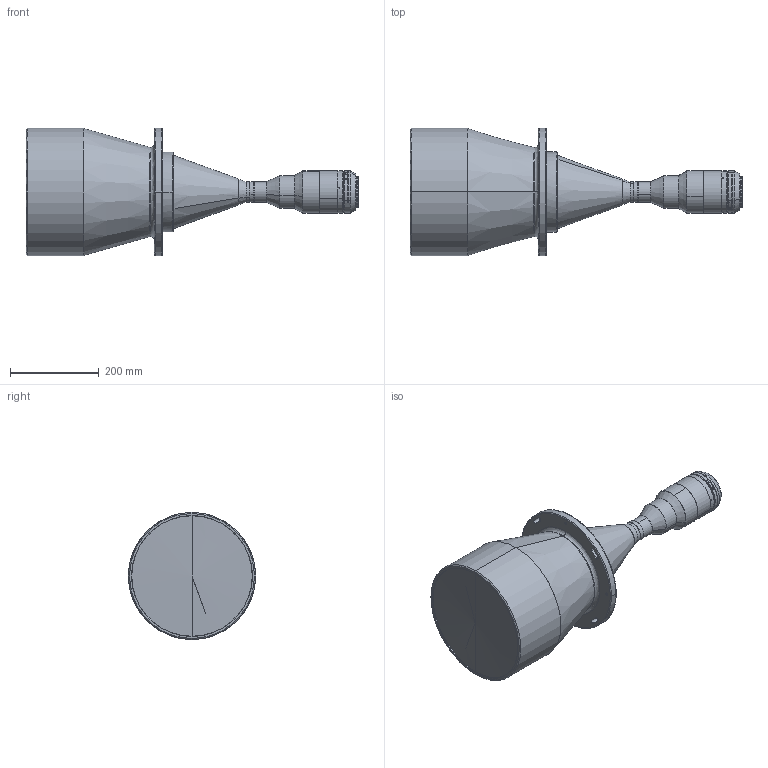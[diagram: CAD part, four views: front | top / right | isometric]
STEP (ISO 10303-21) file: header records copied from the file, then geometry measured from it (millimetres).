
FILE_DESCRIPTION (( 'STEP AP203' ), '1' );
FILE_NAME ('DTCM150M-240H-M72-19.STEP', '2020-05-15T02:35:35', ( '' ), ( '' ), 'SwSTEP 2.0', 'SolidWorks 2017', '' );
FILE_SCHEMA (( 'CONFIG_CONTROL_DESIGN' ));
Length unit declared in the file: millimetre
Products named in the file (1): DTCM150M-240H-M72-19
Bounding box: 746.97 x 286 x 286 mm (x, y, z)
Volume: 20195181.5 mm3; surface area: 540587.7 mm2
Topology: 1 solids, 2 shells, 164 faces, 398 edges, 250 vertices
Faces by surface type: cylinder 71, cone 48, plane 23, bspline 22
Entity records: 6057 total; most frequent: CARTESIAN_POINT 2166, DIRECTION 834, ORIENTED_EDGE 788, EDGE_CURVE 394, AXIS2_PLACEMENT_3D 354, VERTEX_POINT 250, CIRCLE 211, EDGE_LOOP 196
